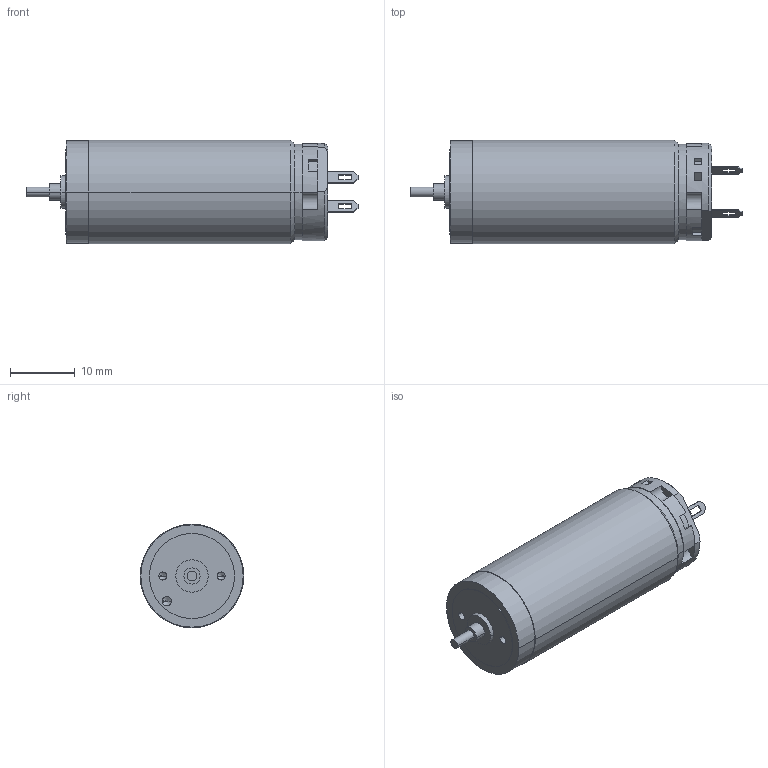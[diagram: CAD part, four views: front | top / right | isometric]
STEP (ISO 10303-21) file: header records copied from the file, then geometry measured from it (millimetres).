
FILE_DESCRIPTION((''),'2;1');
FILE_NAME('118678','2016-10-10T',('mmagvisi'),(''),'CREO PARAMETRIC BY PTC INC, 2016050','CREO PARAMETRIC BY PTC INC, 2016050','');
FILE_SCHEMA(('CONFIG_CONTROL_DESIGN'));
Length unit declared in the file: millimetre
Products named in the file (1): 118678
Bounding box: 51.25 x 16 x 16 mm (x, y, z)
Volume: 7886.4 mm3; surface area: 2665.3 mm2
Topology: 1 solids, 1 shells, 148 faces, 358 edges, 229 vertices
Faces by surface type: plane 95, cylinder 43, cone 10
Entity records: 6424 total; most frequent: DIRECTION 777, CARTESIAN_POINT 746, ORIENTED_EDGE 704, PRESENTATION_STYLE_ASSIGNMENT 479, STYLED_ITEM 353, CURVE_STYLE 352, EDGE_CURVE 352, AXIS2_PLACEMENT_3D 281
